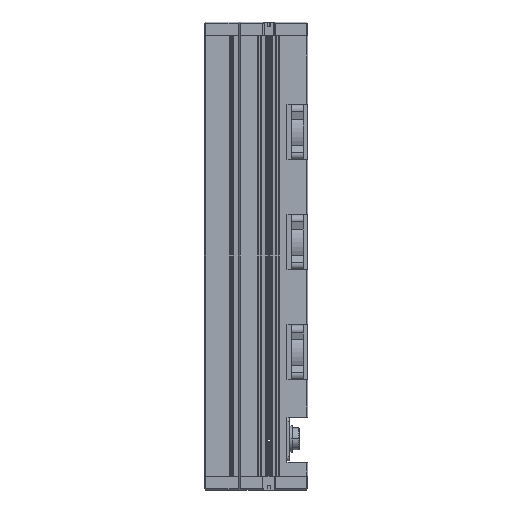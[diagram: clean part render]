
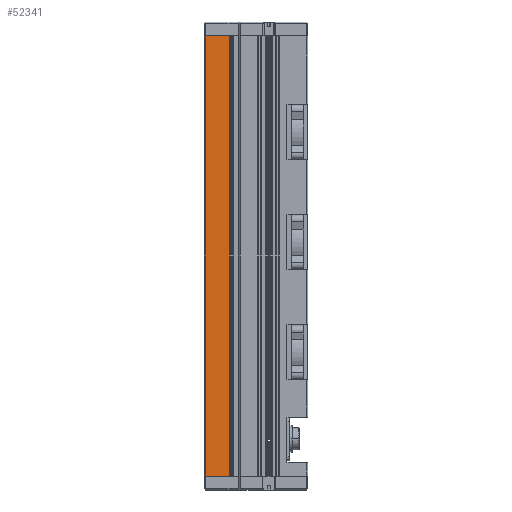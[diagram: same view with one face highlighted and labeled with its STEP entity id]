
A CAD part, left-side view. The second image highlights one B-rep face of the part: STEP entity #52341.
In plain terms, the highlighted planar face has unit normal (-1, 0, 0).
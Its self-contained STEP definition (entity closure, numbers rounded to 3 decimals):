
#3587 = VERTEX_POINT ( 'NONE', #5427 ) ;
#3598 = DIRECTION ( 'NONE',  ( -1., 0., 0. ) ) ;
#3646 = CARTESIAN_POINT ( 'NONE',  ( -15., -1.5, -160. ) ) ;
#5413 = CARTESIAN_POINT ( 'NONE',  ( -15., 16., -160. ) ) ;
#5427 = CARTESIAN_POINT ( 'NONE',  ( -15., -1.5, 160. ) ) ;
#6233 = CARTESIAN_POINT ( 'NONE',  ( -15., 16., 160. ) ) ;
#6438 = VECTOR ( 'NONE', #20096, 1000. ) ;
#6771 = FACE_OUTER_BOUND ( 'NONE', #46350, .T. ) ;
#7154 = PLANE ( 'NONE',  #43401 ) ;
#7535 = EDGE_CURVE ( 'NONE', #29623, #38887, #29871, .T. ) ;
#8942 = LINE ( 'NONE', #13571, #33008 ) ;
#8957 = ORIENTED_EDGE ( 'NONE', *, *, #33452, .T. ) ;
#10803 = DIRECTION ( 'NONE',  ( 0., -1., 0. ) ) ;
#13571 = CARTESIAN_POINT ( 'NONE',  ( -15., 0., -160. ) ) ;
#20096 = DIRECTION ( 'NONE',  ( 0., 0., 1. ) ) ;
#23056 = CARTESIAN_POINT ( 'NONE',  ( -15., -1.5, -160. ) ) ;
#23922 = VECTOR ( 'NONE', #10803, 1000. ) ;
#27027 = EDGE_CURVE ( 'NONE', #38887, #3587, #30270, .T. ) ;
#28068 = CARTESIAN_POINT ( 'NONE',  ( -15., 16., -160. ) ) ;
#29623 = VERTEX_POINT ( 'NONE', #5413 ) ;
#29871 = LINE ( 'NONE', #28068, #6438 ) ;
#30270 = LINE ( 'NONE', #40503, #23922 ) ;
#32164 = ORIENTED_EDGE ( 'NONE', *, *, #40671, .T. ) ;
#33008 = VECTOR ( 'NONE', #45774, 1000. ) ;
#33452 = EDGE_CURVE ( 'NONE', #29623, #43381, #8942, .T. ) ;
#38887 = VERTEX_POINT ( 'NONE', #6233 ) ;
#39676 = CARTESIAN_POINT ( 'NONE',  ( -15., 0., -160. ) ) ;
#39865 = ORIENTED_EDGE ( 'NONE', *, *, #7535, .F. ) ;
#40503 = CARTESIAN_POINT ( 'NONE',  ( -15., 0., 160. ) ) ;
#40562 = ORIENTED_EDGE ( 'NONE', *, *, #27027, .F. ) ;
#40671 = EDGE_CURVE ( 'NONE', #43381, #3587, #49409, .T. ) ;
#43381 = VERTEX_POINT ( 'NONE', #3646 ) ;
#43401 = AXIS2_PLACEMENT_3D ( 'NONE', #39676, #3598, #43885 ) ;
#43885 = DIRECTION ( 'NONE',  ( 0., 1., 0. ) ) ;
#44989 = VECTOR ( 'NONE', #47089, 1000. ) ;
#45774 = DIRECTION ( 'NONE',  ( 0., -1., 0. ) ) ;
#46350 = EDGE_LOOP ( 'NONE', ( #40562, #39865, #8957, #32164 ) ) ;
#47089 = DIRECTION ( 'NONE',  ( 0., 0., 1. ) ) ;
#49409 = LINE ( 'NONE', #23056, #44989 ) ;
#52341 = ADVANCED_FACE ( 'NONE', ( #6771 ), #7154, .T. ) ;
